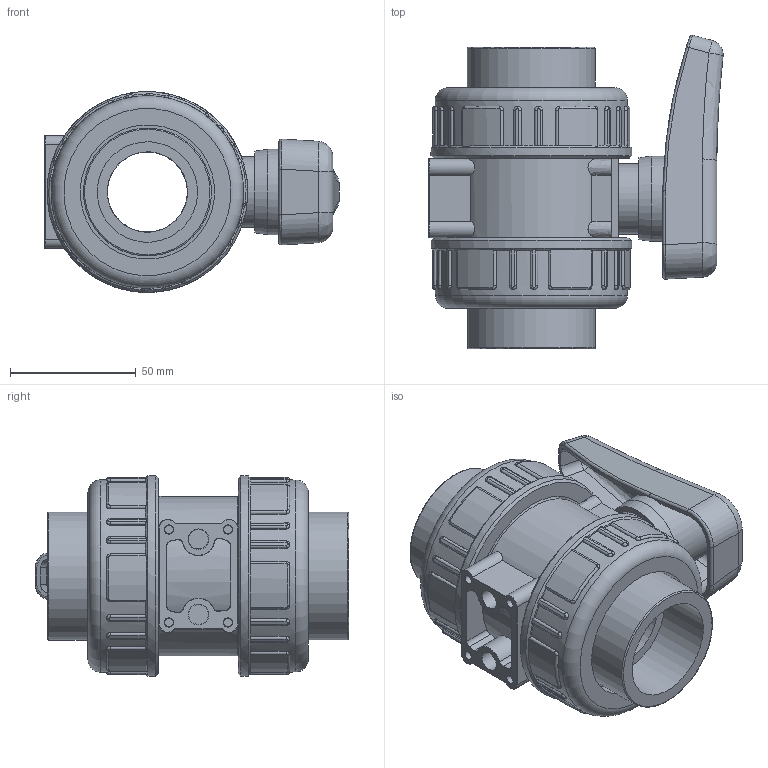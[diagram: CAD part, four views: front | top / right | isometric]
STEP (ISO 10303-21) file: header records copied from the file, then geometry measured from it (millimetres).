
FILE_DESCRIPTION(/* description */ (''),/* implementation_level */ '2;1');
FILE_NAME(/* name */ 'C:\Users\POLYPIPE\Desktop\DATASET INVENTOR\LIBRERIA EFFAST\3D_VALVOLE\3D_VALVOLE A SFERA\3D_BK1\3D_BHPBK1H\3D_BHPBK1H0400.stp',/* time_stamp */ '2018-01-25T16:22:37+01:00',/* author */ ('POLYPIPE'),/* organization */ (''),/* preprocessor_version */ 'ST-DEVELOPER v16.1',/* originating_system */ 'Autodesk Inventor 2016',/* authorisation */ '');
FILE_SCHEMA (('CONFIG_CONTROL_DESIGN'));
Length unit declared in the file: centimetre
Products named in the file (1): 3D_BHPBK1H0400
Bounding box: 117.24 x 124.9 x 79.99 mm (x, y, z)
Volume: 343121 mm3; surface area: 98540 mm2
Topology: 1 solids, 3 shells, 610 faces, 1540 edges, 963 vertices
Faces by surface type: cylinder 206, plane 193, bspline 162, torus 36, cone 9, sphere 4
Full cylindrical faces by diameter (mm): 3 x4, 3.5 x4, 8 x2, 18.1 x1, 28.1 x1, 31.8 x1, 32 x2, 34 x1, 35.3 x1, 40 x2, 47 x1, 51 x3, 53.5 x2, 59.7 x2, 61.8 x2, 65.6 x2, 76.6 x2, 80 x2
Entity records: 63401 total; most frequent: CARTESIAN_POINT 49134, ORIENTED_EDGE 2956, DIRECTION 2578, EDGE_CURVE 1475, AXIS2_PLACEMENT_3D 1005, VERTEX_POINT 948, EDGE_LOOP 694, STYLED_ITEM 611
